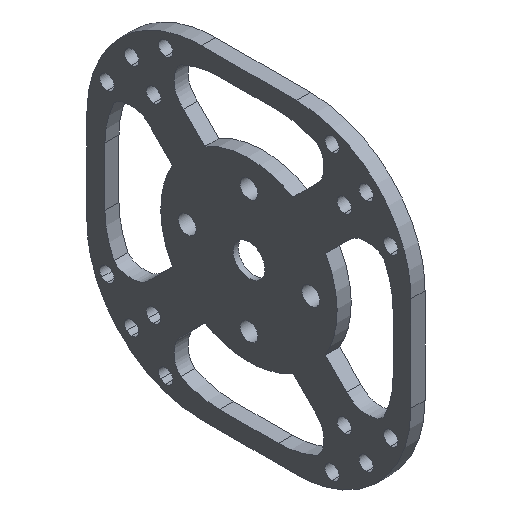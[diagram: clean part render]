
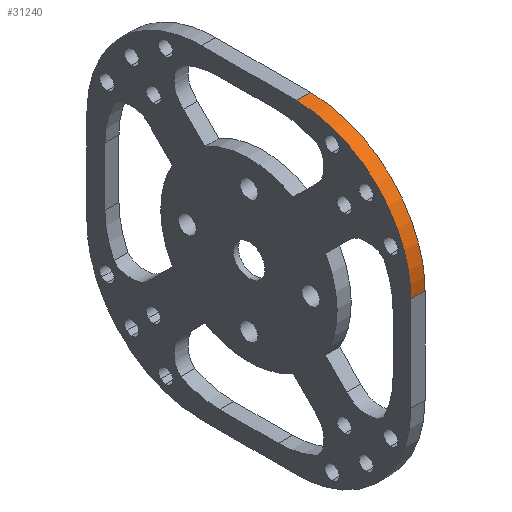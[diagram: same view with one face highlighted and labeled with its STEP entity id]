
A CAD part, isometric view. The second image highlights one B-rep face of the part: STEP entity #31240.
In plain terms, the highlighted free-form (B-spline) face has degree [2, 1] with [9, 2] control points.
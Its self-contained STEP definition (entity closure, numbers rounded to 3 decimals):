
#280 = CARTESIAN_POINT ('', (353., 64.952, 183.712));
#290 = VERTEX_POINT ('', #280);
#350 = CARTESIAN_POINT ('', (353., 0., 118.76));
#360 = VERTEX_POINT ('', #350);
#370 = CARTESIAN_POINT ('', (353., 64.952, 183.712));
#380 = CARTESIAN_POINT ('', (353., 0., 183.712));
#390 = CARTESIAN_POINT ('', (353., 0., 118.76));
#400 = (
   BOUNDED_CURVE ()
   B_SPLINE_CURVE (2, (#370, #380, #390), .UNSPECIFIED., .F., .U.)
   B_SPLINE_CURVE_WITH_KNOTS ((3, 3), (180., 270.), .UNSPECIFIED.)
   CURVE ()
   GEOMETRIC_REPRESENTATION_ITEM ()
   RATIONAL_B_SPLINE_CURVE ((1., 0.707, 1.))
   REPRESENTATION_ITEM ('')
);
#410 = EDGE_CURVE ('', #290, #360, #400, .T.);
#8660 = CARTESIAN_POINT ('', (345., 0., 118.76));
#8670 = VERTEX_POINT ('', #8660);
#8730 = CARTESIAN_POINT ('', (345., 64.952, 183.712));
#8740 = VERTEX_POINT ('', #8730);
#8750 = CARTESIAN_POINT ('', (345., 64.952, 183.712));
#8760 = CARTESIAN_POINT ('', (345., 0., 183.712));
#8770 = CARTESIAN_POINT ('', (345., 0., 118.76));
#8780 = (
   BOUNDED_CURVE ()
   B_SPLINE_CURVE (2, (#8750, #8760, #8770), .UNSPECIFIED., .F., .U.)
   B_SPLINE_CURVE_WITH_KNOTS ((3, 3), (180., 270.), .UNSPECIFIED.)
   CURVE ()
   GEOMETRIC_REPRESENTATION_ITEM ()
   RATIONAL_B_SPLINE_CURVE ((1., 0.707, 1.))
   REPRESENTATION_ITEM ('')
);
#8790 = EDGE_CURVE ('', #8740, #8670, #8780, .T.);
#30820 = CARTESIAN_POINT ('', (345., 0., 118.76));
#30830 = CARTESIAN_POINT ('', (353., 0., 118.76));
#30840 = B_SPLINE_CURVE_WITH_KNOTS ('', 1, (#30820, #30830), .UNSPECIFIED., .F., .U., (2, 2), (0., 1.), .UNSPECIFIED.);
#30850 = EDGE_CURVE ('', #8670, #360, #30840, .T.);
#30950 = ORIENTED_EDGE ('', *, *, #8790, .T.);
#30960 = ORIENTED_EDGE ('', *, *, #30850, .T.);
#30970 = ORIENTED_EDGE ('', *, *, #410, .F.);
#30980 = CARTESIAN_POINT ('', (345., 64.952, 183.712));
#30990 = CARTESIAN_POINT ('', (353., 64.952, 183.712));
#31000 = B_SPLINE_CURVE_WITH_KNOTS ('', 1, (#30980, #30990), .UNSPECIFIED., .F., .U., (2, 2), (0., 1.), .UNSPECIFIED.);
#31010 = EDGE_CURVE ('', #8740, #290, #31000, .T.);
#31020 = ORIENTED_EDGE ('', *, *, #31010, .F.);
#31030 = EDGE_LOOP ('', (#30950, #30960, #30970, #31020));
#31040 = FACE_OUTER_BOUND ('', #31030, .T.);
#31050 = CARTESIAN_POINT ('', (344.199, 64.952, 53.808));
#31060 = CARTESIAN_POINT ('', (353.801, 64.952, 53.808));
#31070 = CARTESIAN_POINT ('', (344.199, 129.904, 53.808));
#31080 = CARTESIAN_POINT ('', (353.801, 129.904, 53.808));
#31090 = CARTESIAN_POINT ('', (344.199, 129.904, 118.76));
#31100 = CARTESIAN_POINT ('', (353.801, 129.904, 118.76));
#31110 = CARTESIAN_POINT ('', (344.199, 129.904, 183.712));
#31120 = CARTESIAN_POINT ('', (353.801, 129.904, 183.712));
#31130 = CARTESIAN_POINT ('', (344.199, 64.952, 183.712));
#31140 = CARTESIAN_POINT ('', (353.801, 64.952, 183.712));
#31150 = CARTESIAN_POINT ('', (344.199, 0., 183.712));
#31160 = CARTESIAN_POINT ('', (353.801, 0., 183.712));
#31170 = CARTESIAN_POINT ('', (344.199, 0., 118.76));
#31180 = CARTESIAN_POINT ('', (353.801, 0., 118.76));
#31190 = CARTESIAN_POINT ('', (344.199, 0., 53.808));
#31200 = CARTESIAN_POINT ('', (353.801, 0., 53.808));
#31210 = CARTESIAN_POINT ('', (344.199, 64.952, 53.808));
#31220 = CARTESIAN_POINT ('', (353.801, 64.952, 53.808));
#31230 = (
   BOUNDED_SURFACE ()
   B_SPLINE_SURFACE (2, 1, ((#31050, #31060), (#31070, #31080), (#31090, #31100), (#31110, #31120), (#31130, #31140), (#31150, #31160), (#31170, #31180), (#31190, #31200), (#31210, #31220)), .UNSPECIFIED., .T., .F., .U.)
   B_SPLINE_SURFACE_WITH_KNOTS ((3, 2, 2, 2, 3), (2, 2), (0., 0.25, 0.5, 0.75, 1.), (0., 1.), .UNSPECIFIED.)
   SURFACE ()
   GEOMETRIC_REPRESENTATION_ITEM ()
   RATIONAL_B_SPLINE_SURFACE (((1., 1.), (0.707, 0.707), (1., 1.), (0.707, 0.707), (1., 1.), (0.707, 0.707), (1., 1.), (0.707, 0.707), (1., 1.)))
   REPRESENTATION_ITEM ('')
);
#31240 = ADVANCED_FACE ('', (#31040), #31230, .T.);
